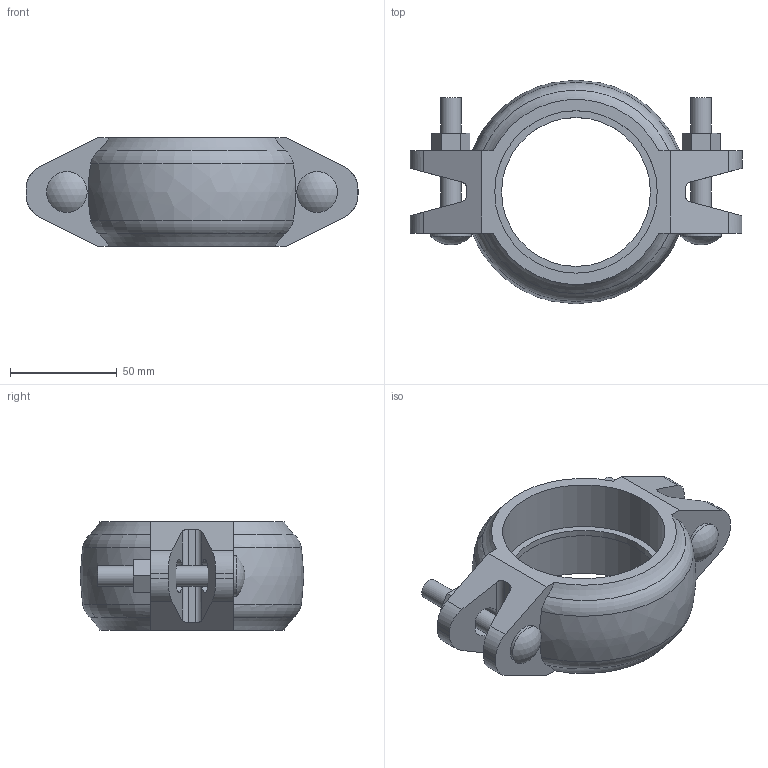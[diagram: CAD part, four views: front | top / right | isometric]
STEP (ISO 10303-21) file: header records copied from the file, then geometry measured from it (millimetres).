
FILE_DESCRIPTION(/* description */ ('VICTAULIC STYLE 009N FIRELOCK EZ RIGID COUPLING','CAx-IF Rec.Pracs.---Representation and Presentation of Product Manufacturing Information (PMI)---4.0---2014-10-13'),/* implementation_level */ '2;1');
FILE_NAME(/* name */ 'C:\Users\Vjadhav\AppData\Roaming\Autodesk\ApplicationPlugins\Victaulic.Temp\A361\Victaulic_FP-FireLock_Coupling Rigid_IR_Style 009N (OGS)_02.5 (76.1) (65).stp',/* time_stamp */ '2022-03-23T18:54:42+05:00',/* author */ ('Vjadhav'),/* organization */ ('Victaulic'),/* preprocessor_version */ 'ST-DEVELOPER v17.2',/* originating_system */ 'Autodesk Inventor 2019',/* authorisation */ '');
FILE_SCHEMA (('AP242_MANAGED_MODEL_BASED_3D_ENGINEERING_MIM_LF { 1 0 10303 442 1 1 4 }'));
Length unit declared in the file: inch
Products named in the file (2): 009N-02.5 (76.1); 009N-02.5 (76.1)_1
Assembly tree (1 placements, depth 2):
  009N-02.5 (76.1)
    009N-02.5 (76.1)_1
Bounding box: 155.7 x 104.9 x 50.8 mm (x, y, z)
Volume: 223312.2 mm3; surface area: 48641.8 mm2
Topology: 1 solids, 1 shells, 91 faces, 263 edges, 178 vertices
Faces by surface type: plane 50, cylinder 29, torus 8, sphere 2, bspline 2
Full cylindrical faces by diameter (mm): 9.525 x4, 19.05 x2, 69.85 x1, 76.2 x2
Entity records: 3407 total; most frequent: CARTESIAN_POINT 783, ORIENTED_EDGE 526, DIRECTION 505, EDGE_CURVE 263, VERTEX_POINT 178, AXIS2_PLACEMENT_3D 178, LINE 149, VECTOR 149
